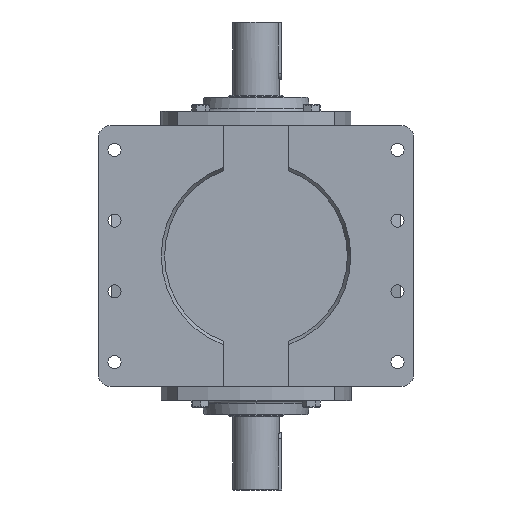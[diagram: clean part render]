
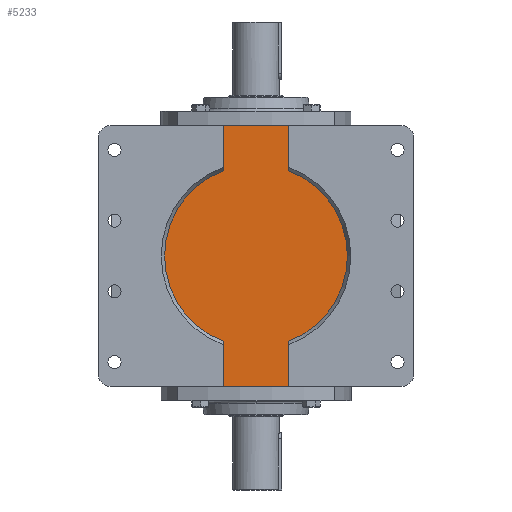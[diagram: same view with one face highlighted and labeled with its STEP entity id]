
A CAD part, front view. The second image highlights one B-rep face of the part: STEP entity #5233.
In plain terms, the highlighted planar face has unit normal (0, -1, 0).
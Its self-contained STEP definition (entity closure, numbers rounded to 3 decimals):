
#286 = ORIENTED_EDGE ( 'NONE', *, *, #3824, .T. ) ;
#356 = CARTESIAN_POINT ( 'NONE',  ( 60., -279.5, 240. ) ) ;
#779 = ORIENTED_EDGE ( 'NONE', *, *, #10280, .F. ) ;
#838 = AXIS2_PLACEMENT_3D ( 'NONE', #12455, #6125, #2191 ) ;
#1003 = EDGE_CURVE ( 'NONE', #10144, #3663, #11747, .T. ) ;
#1579 = AXIS2_PLACEMENT_3D ( 'NONE', #2037, #5912, #7235 ) ;
#1589 = CARTESIAN_POINT ( 'NONE',  ( 60., -279.5, -240. ) ) ;
#1704 = DIRECTION ( 'NONE',  ( 0., 0., -1. ) ) ;
#1818 = AXIS2_PLACEMENT_3D ( 'NONE', #4719, #13599, #3266 ) ;
#1830 = EDGE_CURVE ( 'NONE', #10144, #15033, #13929, .T. ) ;
#2014 = VECTOR ( 'NONE', #1704, 1000. ) ;
#2037 = CARTESIAN_POINT ( 'NONE',  ( 0., -279.5, 0. ) ) ;
#2191 = DIRECTION ( 'NONE',  ( 0., 0., 1. ) ) ;
#2752 = VECTOR ( 'NONE', #15903, 1000. ) ;
#3258 = CARTESIAN_POINT ( 'NONE',  ( -60., -279.5, 360.458 ) ) ;
#3266 = DIRECTION ( 'NONE',  ( 0., 0., 1. ) ) ;
#3361 = VERTEX_POINT ( 'NONE', #5623 ) ;
#3399 = LINE ( 'NONE', #3258, #13655 ) ;
#3663 = VERTEX_POINT ( 'NONE', #15584 ) ;
#3814 = ORIENTED_EDGE ( 'NONE', *, *, #1830, .F. ) ;
#3824 = EDGE_CURVE ( 'NONE', #9568, #3361, #3399, .T. ) ;
#4719 = CARTESIAN_POINT ( 'NONE',  ( 0., -279.5, 0. ) ) ;
#4839 = EDGE_CURVE ( 'NONE', #3361, #11245, #6171, .T. ) ;
#4903 = DIRECTION ( 'NONE',  ( 1., 0., 0. ) ) ;
#5081 = CARTESIAN_POINT ( 'NONE',  ( 60., -279.5, 360.458 ) ) ;
#5233 = ADVANCED_FACE ( 'NONE', ( #6965 ), #9791, .F. ) ;
#5286 = VECTOR ( 'NONE', #4903, 1000. ) ;
#5623 = CARTESIAN_POINT ( 'NONE',  ( -60., -279.5, -240. ) ) ;
#5699 = VECTOR ( 'NONE', #12495, 1000. ) ;
#5912 = DIRECTION ( 'NONE',  ( 0., 1., 0. ) ) ;
#6125 = DIRECTION ( 'NONE',  ( 0., 1., 0. ) ) ;
#6171 = LINE ( 'NONE', #1589, #2752 ) ;
#6176 = CARTESIAN_POINT ( 'NONE',  ( 60., -279.5, -240. ) ) ;
#6794 = CARTESIAN_POINT ( 'NONE',  ( -60., -279.5, -156.92 ) ) ;
#6965 = FACE_OUTER_BOUND ( 'NONE', #7994, .T. ) ;
#7235 = DIRECTION ( 'NONE',  ( 0., 0., 1. ) ) ;
#7994 = EDGE_LOOP ( 'NONE', ( #15000, #11982, #779, #3814, #9623, #11547, #286, #15529 ) ) ;
#8479 = VERTEX_POINT ( 'NONE', #13959 ) ;
#9568 = VERTEX_POINT ( 'NONE', #6794 ) ;
#9623 = ORIENTED_EDGE ( 'NONE', *, *, #1003, .T. ) ;
#9791 = PLANE ( 'NONE',  #1579 ) ;
#10144 = VERTEX_POINT ( 'NONE', #10688 ) ;
#10256 = VECTOR ( 'NONE', #12863, 1000. ) ;
#10280 = EDGE_CURVE ( 'NONE', #15033, #14687, #15352, .T. ) ;
#10450 = CIRCLE ( 'NONE', #838, 168. ) ;
#10688 = CARTESIAN_POINT ( 'NONE',  ( -60., -279.5, 240. ) ) ;
#10957 = EDGE_CURVE ( 'NONE', #14687, #8479, #14515, .T. ) ;
#10963 = CARTESIAN_POINT ( 'NONE',  ( 60., -279.5, 360.458 ) ) ;
#11245 = VERTEX_POINT ( 'NONE', #6176 ) ;
#11547 = ORIENTED_EDGE ( 'NONE', *, *, #14032, .F. ) ;
#11747 = LINE ( 'NONE', #13874, #5699 ) ;
#11982 = ORIENTED_EDGE ( 'NONE', *, *, #10957, .F. ) ;
#12368 = CARTESIAN_POINT ( 'NONE',  ( 60., -279.5, 156.92 ) ) ;
#12455 = CARTESIAN_POINT ( 'NONE',  ( 0., -279.5, 0. ) ) ;
#12495 = DIRECTION ( 'NONE',  ( 0., 0., -1. ) ) ;
#12618 = CARTESIAN_POINT ( 'NONE',  ( 60., -279.5, 240. ) ) ;
#12863 = DIRECTION ( 'NONE',  ( 0., 0., -1. ) ) ;
#13266 = DIRECTION ( 'NONE',  ( 0., 0., -1. ) ) ;
#13599 = DIRECTION ( 'NONE',  ( 0., 1., 0. ) ) ;
#13655 = VECTOR ( 'NONE', #13266, 1000. ) ;
#13835 = EDGE_CURVE ( 'NONE', #8479, #11245, #16518, .T. ) ;
#13874 = CARTESIAN_POINT ( 'NONE',  ( -60., -279.5, 360.458 ) ) ;
#13929 = LINE ( 'NONE', #12618, #5286 ) ;
#13959 = CARTESIAN_POINT ( 'NONE',  ( 60., -279.5, -156.92 ) ) ;
#14032 = EDGE_CURVE ( 'NONE', #9568, #3663, #10450, .T. ) ;
#14515 = CIRCLE ( 'NONE', #1818, 168. ) ;
#14687 = VERTEX_POINT ( 'NONE', #12368 ) ;
#15000 = ORIENTED_EDGE ( 'NONE', *, *, #13835, .F. ) ;
#15033 = VERTEX_POINT ( 'NONE', #356 ) ;
#15352 = LINE ( 'NONE', #10963, #2014 ) ;
#15529 = ORIENTED_EDGE ( 'NONE', *, *, #4839, .T. ) ;
#15584 = CARTESIAN_POINT ( 'NONE',  ( -60., -279.5, 156.92 ) ) ;
#15903 = DIRECTION ( 'NONE',  ( 1., 0., 0. ) ) ;
#16518 = LINE ( 'NONE', #5081, #10256 ) ;
